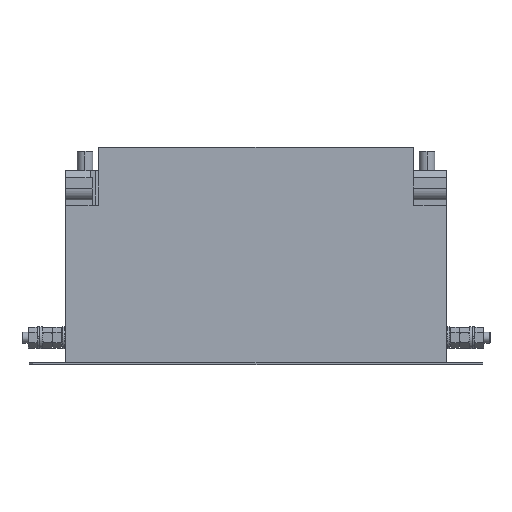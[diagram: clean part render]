
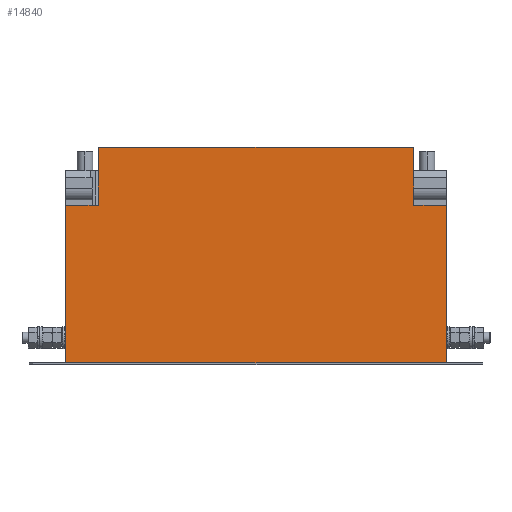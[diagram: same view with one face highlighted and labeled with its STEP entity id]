
A CAD part, top view. The second image highlights one B-rep face of the part: STEP entity #14840.
In plain terms, the highlighted planar face has unit normal (0, 0, 1).
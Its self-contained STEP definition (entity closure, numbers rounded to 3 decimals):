
#3796=DIRECTION('',(0.,1.,0.));
#3797=VECTOR('',#3796,0.4);
#3798=CARTESIAN_POINT('',(86.8,118.6,42.5));
#3799=LINE('',#3798,#3797);
#3803=CARTESIAN_POINT('',(86.,118.,42.5));
#3804=DIRECTION('',(0.,0.,1.));
#3805=DIRECTION('',(1.,0.,0.));
#3806=AXIS2_PLACEMENT_3D('',#3803,#3804,#3805);
#3811=DIRECTION('',(0.,-1.,0.));
#3812=VECTOR('',#3811,31.);
#3813=CARTESIAN_POINT('',(87.,118.,42.5));
#3814=LINE('',#3813,#3812);
#3818=DIRECTION('',(-1.,0.,0.));
#3819=VECTOR('',#3818,18.);
#3820=CARTESIAN_POINT('',(105.,87.,42.5));
#3821=LINE('',#3820,#3819);
#3825=DIRECTION('',(0.,1.,0.));
#3826=VECTOR('',#3825,87.);
#3827=CARTESIAN_POINT('',(105.,0.,42.5));
#3828=LINE('',#3827,#3826);
#3832=DIRECTION('',(1.,0.,0.));
#3833=VECTOR('',#3832,210.);
#3834=CARTESIAN_POINT('',(-105.,0.,42.5));
#3835=LINE('',#3834,#3833);
#3839=DIRECTION('',(0.,-1.,0.));
#3840=VECTOR('',#3839,87.);
#3841=CARTESIAN_POINT('',(-105.,87.,42.5));
#3842=LINE('',#3841,#3840);
#3846=DIRECTION('',(-1.,0.,0.));
#3847=VECTOR('',#3846,18.);
#3848=CARTESIAN_POINT('',(-87.,87.,42.5));
#3849=LINE('',#3848,#3847);
#3853=DIRECTION('',(0.,-1.,0.));
#3854=VECTOR('',#3853,31.);
#3855=CARTESIAN_POINT('',(-87.,118.,42.5));
#3856=LINE('',#3855,#3854);
#3860=CARTESIAN_POINT('',(-86.,118.,42.5));
#3861=DIRECTION('',(0.,0.,1.));
#3862=DIRECTION('',(-0.8,0.6,0.));
#3863=AXIS2_PLACEMENT_3D('',#3860,#3861,#3862);
#3868=DIRECTION('',(0.,-1.,0.));
#3869=VECTOR('',#3868,0.4);
#3870=CARTESIAN_POINT('',(-86.8,119.,42.5));
#3871=LINE('',#3870,#3869);
#3896=DIRECTION('',(-1.,0.,0.));
#3897=VECTOR('',#3896,173.6);
#3898=CARTESIAN_POINT('',(86.8,119.,42.5));
#3899=LINE('',#3898,#3897);
#10395=CARTESIAN_POINT('',(-87.,118.,42.5));
#10397=VERTEX_POINT('',#10395);
#10399=CARTESIAN_POINT('',(87.,118.,42.5));
#10401=VERTEX_POINT('',#10399);
#11679=CARTESIAN_POINT('',(-105.,87.,42.5));
#11680=CARTESIAN_POINT('',(-105.,0.,42.5));
#11681=VERTEX_POINT('',#11679);
#11682=VERTEX_POINT('',#11680);
#11683=CARTESIAN_POINT('',(105.,0.,42.5));
#11684=VERTEX_POINT('',#11683);
#11685=CARTESIAN_POINT('',(105.,87.,42.5));
#11686=VERTEX_POINT('',#11685);
#11687=CARTESIAN_POINT('',(-86.8,119.,42.5));
#11689=VERTEX_POINT('',#11687);
#11691=CARTESIAN_POINT('',(86.8,119.,42.5));
#11693=VERTEX_POINT('',#11691);
#11707=CARTESIAN_POINT('',(-87.,87.,42.5));
#11708=VERTEX_POINT('',#11707);
#11709=CARTESIAN_POINT('',(87.,87.,42.5));
#11710=VERTEX_POINT('',#11709);
#11711=CARTESIAN_POINT('',(-86.8,118.6,42.5));
#11712=VERTEX_POINT('',#11711);
#11713=CARTESIAN_POINT('',(86.8,118.6,42.5));
#11714=VERTEX_POINT('',#11713);
#14812=CARTESIAN_POINT('',(0.,0.,42.5));
#14813=DIRECTION('',(0.,0.,1.));
#14814=DIRECTION('',(1.,0.,0.));
#14815=AXIS2_PLACEMENT_3D('',#14812,#14813,#14814);
#14816=PLANE('',#14815);
#14818=ORIENTED_EDGE('',*,*,#14817,.F.);
#14820=ORIENTED_EDGE('',*,*,#14819,.F.);
#14822=ORIENTED_EDGE('',*,*,#14821,.F.);
#14824=ORIENTED_EDGE('',*,*,#14823,.T.);
#14826=ORIENTED_EDGE('',*,*,#14825,.F.);
#14828=ORIENTED_EDGE('',*,*,#14827,.F.);
#14829=ORIENTED_EDGE('',*,*,#14805,.F.);
#14830=ORIENTED_EDGE('',*,*,#12361,.F.);
#14832=ORIENTED_EDGE('',*,*,#14831,.F.);
#14834=ORIENTED_EDGE('',*,*,#14833,.F.);
#14836=ORIENTED_EDGE('',*,*,#14835,.F.);
#14837=ORIENTED_EDGE('',*,*,#12166,.F.);
#14838=EDGE_LOOP('',(#14818,#14820,#14822,#14824,#14826,#14828,#14829,#14830,
#14832,#14834,#14836,#14837));
#14839=FACE_OUTER_BOUND('',#14838,.F.);
#3807=CIRCLE('',#3806,1.);
#3864=CIRCLE('',#3863,1.);
#12166=EDGE_CURVE('',#11689,#11712,#3871,.T.);
#12361=EDGE_CURVE('',#11681,#11682,#3842,.T.);
#14805=EDGE_CURVE('',#11682,#11684,#3835,.T.);
#14817=EDGE_CURVE('',#11693,#11689,#3899,.T.);
#14819=EDGE_CURVE('',#11714,#11693,#3799,.T.);
#14821=EDGE_CURVE('',#10401,#11714,#3807,.T.);
#14823=EDGE_CURVE('',#10401,#11710,#3814,.T.);
#14825=EDGE_CURVE('',#11686,#11710,#3821,.T.);
#14827=EDGE_CURVE('',#11684,#11686,#3828,.T.);
#14831=EDGE_CURVE('',#11708,#11681,#3849,.T.);
#14833=EDGE_CURVE('',#10397,#11708,#3856,.T.);
#14835=EDGE_CURVE('',#11712,#10397,#3864,.T.);
#14840=ADVANCED_FACE('',(#14839),#14816,.T.);
